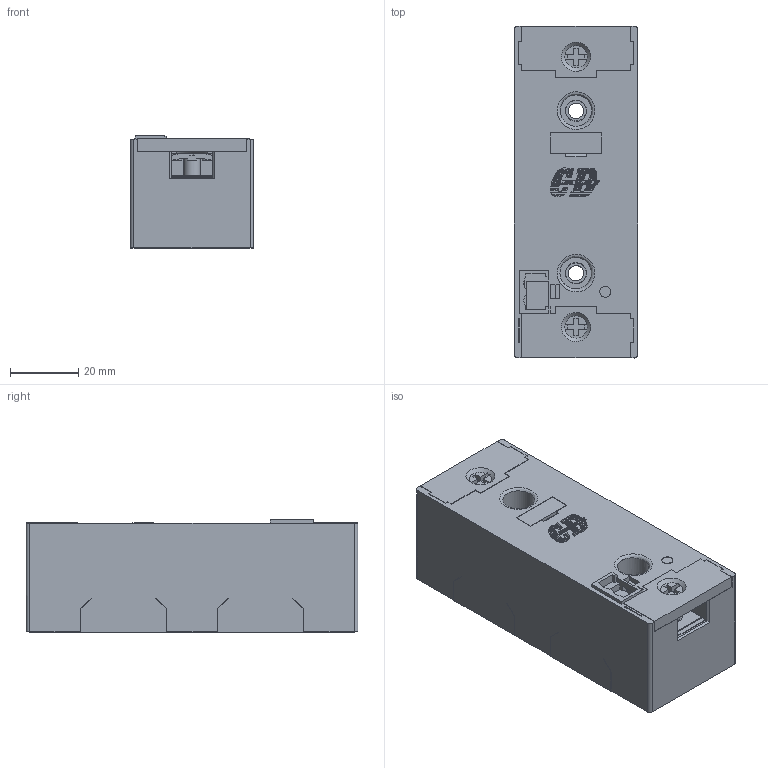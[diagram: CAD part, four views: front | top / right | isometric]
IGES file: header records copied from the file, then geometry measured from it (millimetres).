
Global section: file name: SR0; native system: AutoCAD 2015 - Italiano (Italian); preprocessor: Autodesk Translation Framework DWG producer (atf_dwg_producer); organization: unknown; date: 20191106.180526; units: millimetre
Bounding box: 36 x 97 x 32.9 mm (x, y, z)
Volume: 103569.5 mm3; surface area: 25943.4 mm2
Topology: 1 solids, 10 shells, 1319 faces, 3753 edges, 2498 vertices
Faces by surface type: bspline 1319
